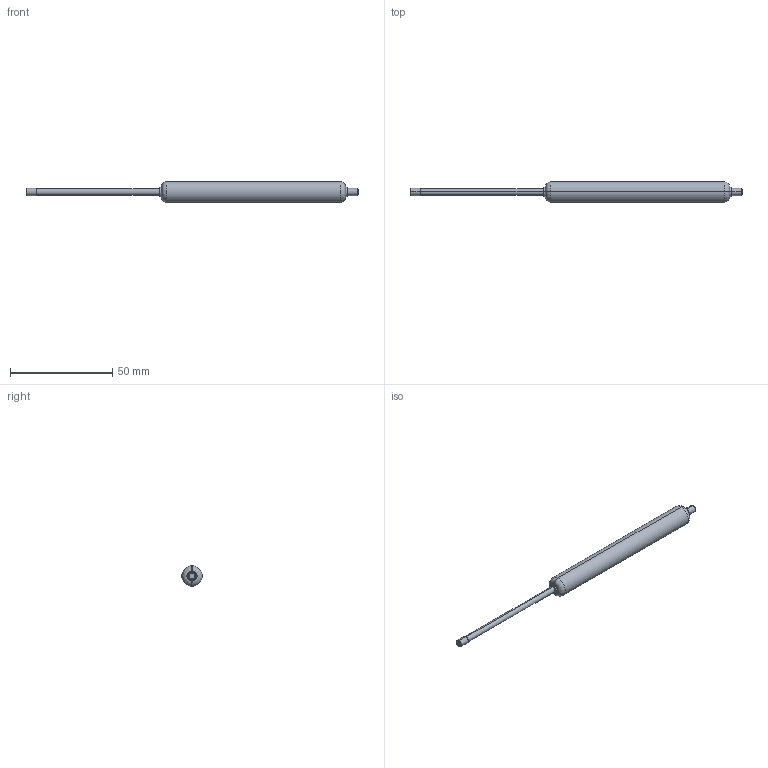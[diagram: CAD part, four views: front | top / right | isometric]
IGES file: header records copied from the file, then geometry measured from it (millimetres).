
Start section: SolidWorks IGES file using analytic representation for surfaces
Bounding box: 162 x 10 x 10 mm (x, y, z)
Surface area: 3616.3 mm2 (no closed solid volume)
Topology: 0 solids, 0 shells, 27 faces, 464 edges, 464 vertices
Faces by surface type: revolution 16, bspline 11
